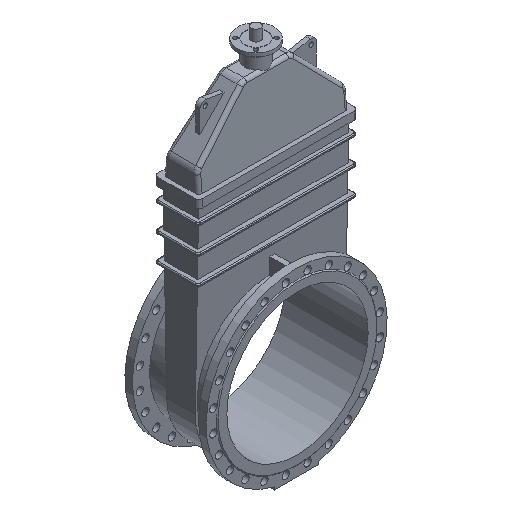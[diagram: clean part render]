
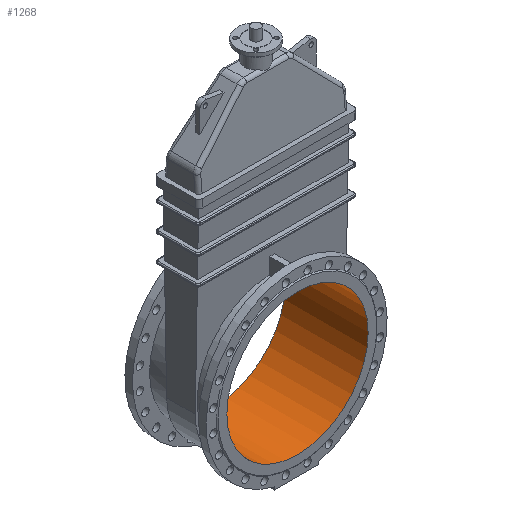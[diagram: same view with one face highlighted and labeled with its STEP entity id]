
A CAD part, isometric view. The second image highlights one B-rep face of the part: STEP entity #1268.
In plain terms, the highlighted cylindrical face has radius 400 mm (diameter 800 mm), a full revolution.
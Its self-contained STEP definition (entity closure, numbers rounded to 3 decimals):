
#1268=ADVANCED_FACE('',(#4452,#4454),#4456,.F.);
#4452=FACE_OUTER_BOUND('',#4453,.T.);
#4453=EDGE_LOOP('',(#7507));
#4454=FACE_OUTER_BOUND('',#4455,.T.);
#4455=EDGE_LOOP('',(#7508));
#4456=CYLINDRICAL_SURFACE('',#4457,400.);
#4457=AXIS2_PLACEMENT_3D('',#4458,#4459,#4460);
#4458=CARTESIAN_POINT('',(0.,235.,0.));
#4459=DIRECTION('',(0.,1.,0.));
#4460=DIRECTION('',(0.,0.,1.));
#7507=ORIENTED_EDGE('',*,*,#8422,.T.);
#7508=ORIENTED_EDGE('',*,*,#8421,.F.);
#8421=EDGE_CURVE('',#9337,#9337,#9338,.T.);
#8422=EDGE_CURVE('',#9339,#9339,#9340,.T.);
#9337=VERTEX_POINT('',#11413);
#9338=CIRCLE('',#11414,400.);
#9339=VERTEX_POINT('',#11418);
#9340=CIRCLE('',#11419,400.);
#11413=CARTESIAN_POINT('',(0.,-235.,400.));
#11414=AXIS2_PLACEMENT_3D('',#11415,#11416,#11417);
#11415=CARTESIAN_POINT('',(0.,-235.,0.));
#11416=DIRECTION('',(0.,1.,0.));
#11417=DIRECTION('',(0.,0.,1.));
#11418=CARTESIAN_POINT('',(0.,235.,400.));
#11419=AXIS2_PLACEMENT_3D('',#11420,#11421,#11422);
#11420=CARTESIAN_POINT('',(0.,235.,0.));
#11421=DIRECTION('',(0.,1.,0.));
#11422=DIRECTION('',(0.,0.,1.));
